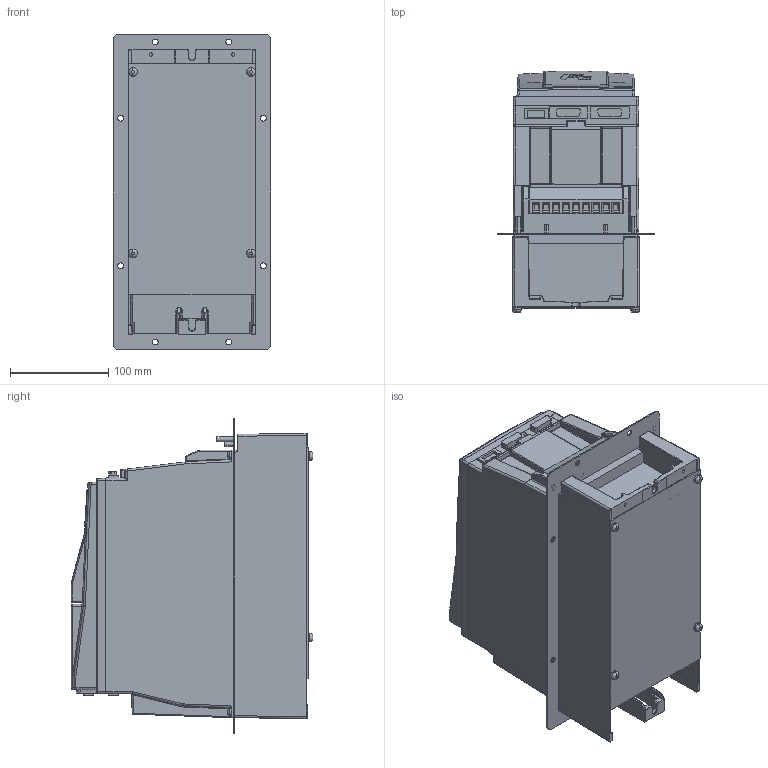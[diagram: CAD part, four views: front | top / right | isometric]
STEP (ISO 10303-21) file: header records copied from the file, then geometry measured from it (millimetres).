
FILE_DESCRIPTION (( 'STEP AP214' ), '1' );
FILE_NAME ('F6-2TR5-P050.STEP', '2020-11-30T09:11:26', ( '' ), ( '' ), 'SwSTEP 2.0', 'SolidWorks 2019', '' );
FILE_SCHEMA (( 'AUTOMOTIVE_DESIGN' ));
Length unit declared in the file: millimetre
Products named in the file (1): F6-2TR5-P050
Bounding box: 160 x 245.65 x 320 mm (x, y, z)
Volume: 7145873.8 mm3; surface area: 338379.8 mm2
Topology: 2 solids, 2 shells, 1356 faces, 3375 edges, 2024 vertices
Faces by surface type: plane 600, cylinder 394, bspline 229, torus 55, sphere 50, cone 28
Entity records: 47624 total; most frequent: CARTESIAN_POINT 17522, ORIENTED_EDGE 6622, DIRECTION 5688, EDGE_CURVE 3311, VERTEX_POINT 2024, AXIS2_PLACEMENT_3D 1921, VECTOR 1846, LINE 1846
